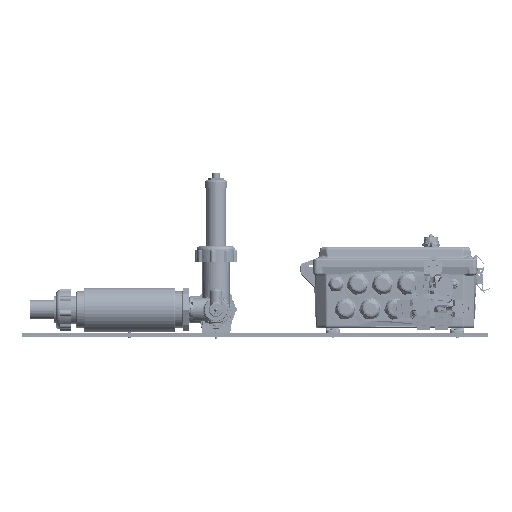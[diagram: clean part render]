
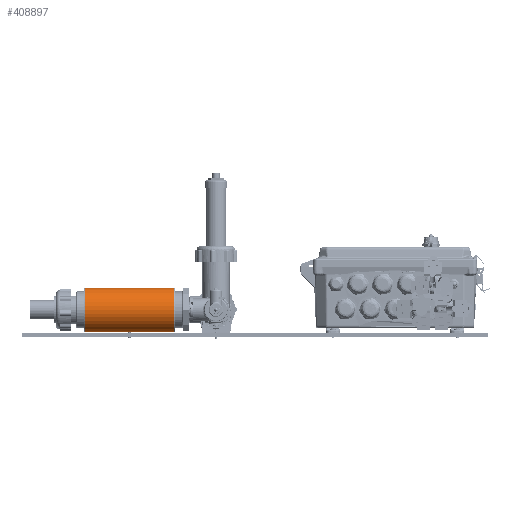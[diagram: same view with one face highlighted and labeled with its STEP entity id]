
A CAD part, front view. The second image highlights one B-rep face of the part: STEP entity #408897.
In plain terms, the highlighted cylindrical face has radius 36.284 mm (diameter 72.568 mm), a partial arc.
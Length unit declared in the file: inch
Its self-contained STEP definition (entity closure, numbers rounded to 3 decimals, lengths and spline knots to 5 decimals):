
#5801 = VERTEX_POINT ( 'NONE', #476294 ) ;
#11778 = CARTESIAN_POINT ( 'NONE',  ( 2.935, 0., -1.4285 ) ) ;
#41754 = DIRECTION ( 'NONE',  ( 0., 0., -1. ) ) ;
#52048 = DIRECTION ( 'NONE',  ( 0., 0., -1. ) ) ;
#88004 = CARTESIAN_POINT ( 'NONE',  ( 2.935, 0., 1.4285 ) ) ;
#96614 = ORIENTED_EDGE ( 'NONE', *, *, #165737, .T. ) ;
#120679 = CARTESIAN_POINT ( 'NONE',  ( 0., 0., 1.4285 ) ) ;
#139062 = EDGE_CURVE ( 'NONE', #250972, #277873, #469129, .T. ) ;
#145560 = VERTEX_POINT ( 'NONE', #243911 ) ;
#155079 = CARTESIAN_POINT ( 'NONE',  ( 2.935, 0., 1.4285 ) ) ;
#157115 = DIRECTION ( 'NONE',  ( -1., 0., 0. ) ) ;
#165737 = EDGE_CURVE ( 'NONE', #250972, #482412, #542297, .T. ) ;
#168912 = ORIENTED_EDGE ( 'NONE', *, *, #139062, .F. ) ;
#181762 = DIRECTION ( 'NONE',  ( -1., 0., 0. ) ) ;
#184391 = ORIENTED_EDGE ( 'NONE', *, *, #597476, .F. ) ;
#204811 = VECTOR ( 'NONE', #291749, 39.37008 ) ;
#215482 = DIRECTION ( 'NONE',  ( -1., 0., 0. ) ) ;
#231797 = FACE_OUTER_BOUND ( 'NONE', #233944, .T. ) ;
#233339 = CARTESIAN_POINT ( 'NONE',  ( 2.885, 0., 1.4285 ) ) ;
#233944 = EDGE_LOOP ( 'NONE', ( #168912, #96614, #286453, #613547, #386305, #184391 ) ) ;
#243911 = CARTESIAN_POINT ( 'NONE',  ( -2.885, 0., 1.4285 ) ) ;
#250972 = VERTEX_POINT ( 'NONE', #396996 ) ;
#254666 = AXIS2_PLACEMENT_3D ( 'NONE', #295485, #499043, #41754 ) ;
#277873 = VERTEX_POINT ( 'NONE', #554439 ) ;
#286453 = ORIENTED_EDGE ( 'NONE', *, *, #502444, .T. ) ;
#291749 = DIRECTION ( 'NONE',  ( -1., 0., 0. ) ) ;
#295485 = CARTESIAN_POINT ( 'NONE',  ( 2.885, 0., 0. ) ) ;
#305742 = CARTESIAN_POINT ( 'NONE',  ( -2.885, 0., 0. ) ) ;
#321280 = VECTOR ( 'NONE', #157115, 39.37008 ) ;
#336818 = EDGE_CURVE ( 'NONE', #371297, #145560, #612288, .T. ) ;
#358734 = DIRECTION ( 'NONE',  ( -1., 0., 0. ) ) ;
#371297 = VERTEX_POINT ( 'NONE', #120679 ) ;
#385338 = DIRECTION ( 'NONE',  ( 0., 0., 1. ) ) ;
#386305 = ORIENTED_EDGE ( 'NONE', *, *, #660053, .T. ) ;
#396996 = CARTESIAN_POINT ( 'NONE',  ( 2.885, 0., -1.4285 ) ) ;
#408897 = ADVANCED_FACE ( 'NONE', ( #231797 ), #435328, .T. ) ;
#410774 = LINE ( 'NONE', #614312, #321280 ) ;
#429770 = VECTOR ( 'NONE', #215482, 39.37008 ) ;
#432561 = VECTOR ( 'NONE', #358734, 39.37008 ) ;
#435328 = CYLINDRICAL_SURFACE ( 'NONE', #601842, 1.4285 ) ;
#443934 = CIRCLE ( 'NONE', #529188, 1.4285 ) ;
#469129 = LINE ( 'NONE', #11778, #429770 ) ;
#476294 = CARTESIAN_POINT ( 'NONE',  ( -2.885, 0., -1.4285 ) ) ;
#482412 = VERTEX_POINT ( 'NONE', #233339 ) ;
#499043 = DIRECTION ( 'NONE',  ( -1., 0., 0. ) ) ;
#502444 = EDGE_CURVE ( 'NONE', #482412, #371297, #545316, .T. ) ;
#509304 = DIRECTION ( 'NONE',  ( 1., 0., 0. ) ) ;
#529188 = AXIS2_PLACEMENT_3D ( 'NONE', #305742, #509304, #52048 ) ;
#542297 = CIRCLE ( 'NONE', #254666, 1.4285 ) ;
#545316 = LINE ( 'NONE', #88004, #204811 ) ;
#554439 = CARTESIAN_POINT ( 'NONE',  ( 0., 0., -1.4285 ) ) ;
#597476 = EDGE_CURVE ( 'NONE', #277873, #5801, #410774, .T. ) ;
#601842 = AXIS2_PLACEMENT_3D ( 'NONE', #638896, #181762, #385338 ) ;
#612288 = LINE ( 'NONE', #155079, #432561 ) ;
#613547 = ORIENTED_EDGE ( 'NONE', *, *, #336818, .T. ) ;
#614312 = CARTESIAN_POINT ( 'NONE',  ( 2.935, 0., -1.4285 ) ) ;
#638896 = CARTESIAN_POINT ( 'NONE',  ( 2.935, 0., 0. ) ) ;
#660053 = EDGE_CURVE ( 'NONE', #145560, #5801, #443934, .T. ) ;
